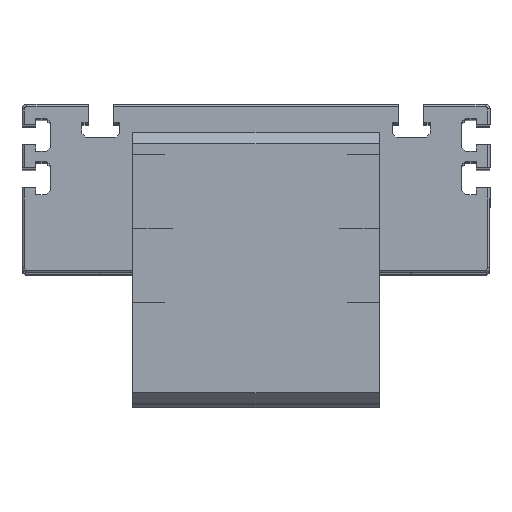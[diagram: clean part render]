
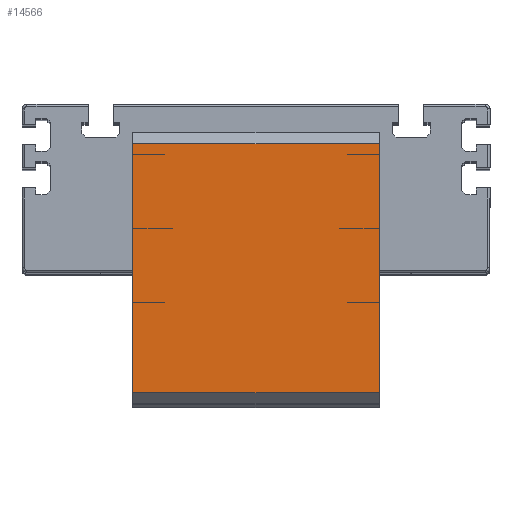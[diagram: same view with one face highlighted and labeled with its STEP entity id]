
A CAD part, top view. The second image highlights one B-rep face of the part: STEP entity #14566.
In plain terms, the highlighted planar face has unit normal (0, 0, 1).
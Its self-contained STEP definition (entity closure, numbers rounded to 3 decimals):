
#50 = ORIENTED_EDGE ( 'NONE', *, *, #11527, .F. ) ;
#754 = DIRECTION ( 'NONE',  ( 0., -1., 0. ) ) ;
#1320 = DIRECTION ( 'NONE',  ( 0., -1., 0. ) ) ;
#2329 = ORIENTED_EDGE ( 'NONE', *, *, #12651, .F. ) ;
#2482 = CARTESIAN_POINT ( 'NONE',  ( 100., 4.5, 45. ) ) ;
#2910 = EDGE_CURVE ( 'NONE', #6390, #11645, #13536, .T. ) ;
#3421 = CARTESIAN_POINT ( 'NONE',  ( 100., 105.5, 45. ) ) ;
#4819 = VECTOR ( 'NONE', #9133, 1000. ) ;
#5090 = LINE ( 'NONE', #14884, #14214 ) ;
#5843 = ORIENTED_EDGE ( 'NONE', *, *, #2910, .T. ) ;
#6390 = VERTEX_POINT ( 'NONE', #9490 ) ;
#7319 = VERTEX_POINT ( 'NONE', #16427 ) ;
#9133 = DIRECTION ( 'NONE',  ( -1., 0., 0. ) ) ;
#9490 = CARTESIAN_POINT ( 'NONE',  ( 100., 105.5, 45. ) ) ;
#11527 = EDGE_CURVE ( 'NONE', #16248, #7319, #12751, .T. ) ;
#11631 = EDGE_LOOP ( 'NONE', ( #16044, #50, #2329, #5843 ) ) ;
#11645 = VERTEX_POINT ( 'NONE', #14352 ) ;
#11769 = EDGE_CURVE ( 'NONE', #11645, #7319, #5090, .T. ) ;
#11878 = PLANE ( 'NONE',  #17280 ) ;
#11973 = FACE_OUTER_BOUND ( 'NONE', #11631, .T. ) ;
#12451 = VECTOR ( 'NONE', #1320, 1000. ) ;
#12557 = CARTESIAN_POINT ( 'NONE',  ( 100., 0., 45. ) ) ;
#12651 = EDGE_CURVE ( 'NONE', #6390, #16248, #15436, .T. ) ;
#12751 = LINE ( 'NONE', #2482, #13358 ) ;
#13292 = DIRECTION ( 'NONE',  ( 0., 1., 0. ) ) ;
#13358 = VECTOR ( 'NONE', #15374, 1000. ) ;
#13536 = LINE ( 'NONE', #3421, #4819 ) ;
#14214 = VECTOR ( 'NONE', #754, 1000. ) ;
#14352 = CARTESIAN_POINT ( 'NONE',  ( 0., 105.5, 45. ) ) ;
#14566 = ADVANCED_FACE ( 'NONE', ( #11973 ), #11878, .F. ) ;
#14857 = CARTESIAN_POINT ( 'NONE',  ( 100., 0., 45. ) ) ;
#14884 = CARTESIAN_POINT ( 'NONE',  ( 0., 0., 45. ) ) ;
#15374 = DIRECTION ( 'NONE',  ( -1., 0., 0. ) ) ;
#15436 = LINE ( 'NONE', #12557, #12451 ) ;
#16044 = ORIENTED_EDGE ( 'NONE', *, *, #11769, .T. ) ;
#16248 = VERTEX_POINT ( 'NONE', #17588 ) ;
#16427 = CARTESIAN_POINT ( 'NONE',  ( 0., 4.5, 45. ) ) ;
#17280 = AXIS2_PLACEMENT_3D ( 'NONE', #14857, #17795, #13292 ) ;
#17588 = CARTESIAN_POINT ( 'NONE',  ( 100., 4.5, 45. ) ) ;
#17795 = DIRECTION ( 'NONE',  ( 0., 0., -1. ) ) ;
